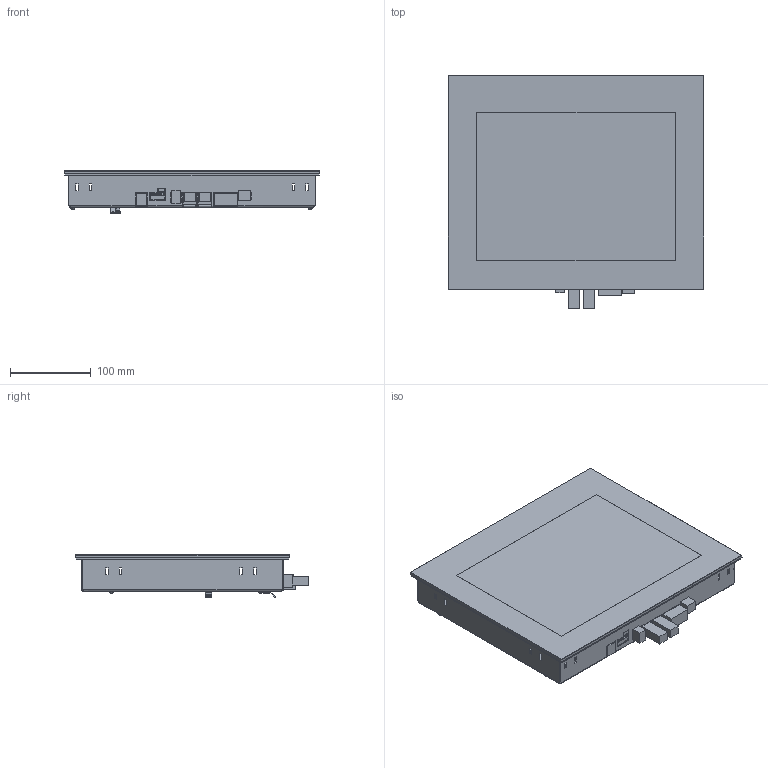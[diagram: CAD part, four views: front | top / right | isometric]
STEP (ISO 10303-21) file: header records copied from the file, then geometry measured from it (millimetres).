
FILE_DESCRIPTION (( 'STEP AP214' ), '1' );
FILE_NAME ('01-230-1233 ETT1233.STEP', '2017-08-31T11:08:22', ( 'SIGMATEK GmbH & Co KG' ), ( 'SIGMATEK GmbH & Co KG' ), 'SwSTEP 2.0', 'SolidWorks 2017', '' );
FILE_SCHEMA (( 'AUTOMOTIVE_DESIGN' ));
Length unit declared in the file: millimetre
Products named in the file (14): ZM1607-3660-12 ETT1233 Abdeckhaube; 01-230-1233 ETT1233; 125500-KPL-00_Best…kung Terminal 2015; 125500 (Leiterplatte); 12,1 Zoll Terminal_HT-Tech_15012016; Halsschraube M2,5x12,3 21101749; ZM1607-3920-10 Batteriedeckel ETTXX33; NTS Einpressnippel MSvernickelt 21100659; ZM1607-3920-10 Batteriedeckel ETTXX33_Ohne Beschriftung; 3030301010 - 1 Flachkopfschraube ISO 7045 (DIN 7985) M3 x 6 - Z7 - 4.8 Torx; 3030261492 Steckzunge 6,3 m.B. M3 DIN46244 St-verzinnt; Linsenflanschkopf M3x7-Torx_0304055923 Button head socket screw ISO 7380 M4x35; s_m3_0
Assembly tree (18 placements, depth 3):
  01-230-1233 ETT1233
    ZM1607-3660-12 ETT1233 Abdeckhaube
      ZM1607-3660-12 ETT1233 Abdeckhaube
      s_m3_0  x3
    Linsenflanschkopf M3x7-Torx_0304055923 Button head socket screw ISO 7380 M4x35  x4
    3030261492 Steckzunge 6,3 m.B. M3 DIN46244 St-verzinnt
    3030301010 - 1 Flachkopfschraube ISO 7045 (DIN 7985) M3 x 6 - Z7 - 4.8 Torx
    ZM1607-3920-10 Batteriedeckel ETTXX33
      ZM1607-3920-10 Batteriedeckel ETTXX33_Ohne Beschriftung
      NTS Einpressnippel MSvernickelt 21100659
    Halsschraube M2,5x12,3 21101749
    12,1 Zoll Terminal_HT-Tech_15012016
    125500-KPL-00_Best…kung Terminal 2015
      125500 (Leiterplatte)
Bounding box: 317 x 289.2 x 52.97 mm (x, y, z)
Volume: 509608.7 mm3; surface area: 452294.8 mm2
Topology: 21 solids, 21 shells, 862 faces, 2176 edges, 1371 vertices
Faces by surface type: plane 540, cylinder 192, cone 80, torus 34, bspline 8, sphere 8
Entity records: 23987 total; most frequent: CARTESIAN_POINT 4177, ORIENTED_EDGE 3644, DIRECTION 3494, EDGE_CURVE 1822, VECTOR 1452, LINE 1452, VERTEX_POINT 1170, AXIS2_PLACEMENT_3D 1021
